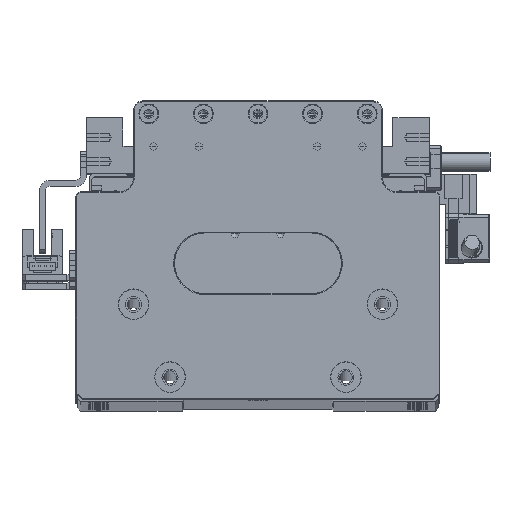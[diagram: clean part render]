
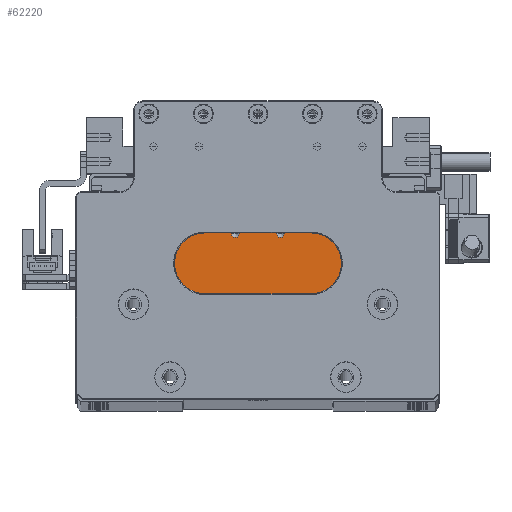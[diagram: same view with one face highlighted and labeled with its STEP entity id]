
A CAD part, top view. The second image highlights one B-rep face of the part: STEP entity #62220.
In plain terms, the highlighted planar face has unit normal (0, 0, 1).
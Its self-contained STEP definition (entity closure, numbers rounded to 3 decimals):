
#442 = ORIENTED_EDGE ( 'NONE', *, *, #6094, .T. ) ;
#823 = CARTESIAN_POINT ( 'NONE',  ( -18.5, 40., 66.894 ) ) ;
#1747 = EDGE_CURVE ( 'NONE', #52433, #30160, #5099, .T. ) ;
#2369 = CARTESIAN_POINT ( 'NONE',  ( 18.5, 40., 66.894 ) ) ;
#2389 = DIRECTION ( 'NONE',  ( 0., 0., -1. ) ) ;
#3523 = EDGE_CURVE ( 'NONE', #11000, #57046, #13319, .T. ) ;
#5069 = EDGE_LOOP ( 'NONE', ( #21007, #442 ) ) ;
#5099 = LINE ( 'NONE', #63470, #29194 ) ;
#5268 = CARTESIAN_POINT ( 'NONE',  ( 29.8, 0.2, 66.894 ) ) ;
#6094 = EDGE_CURVE ( 'NONE', #112941, #102777, #44918, .T. ) ;
#9159 = DIRECTION ( 'NONE',  ( 0., 1., 0. ) ) ;
#9727 = EDGE_CURVE ( 'NONE', #105417, #62885, #73135, .T. ) ;
#11000 = VERTEX_POINT ( 'NONE', #47324 ) ;
#11071 = EDGE_CURVE ( 'NONE', #32023, #73016, #116857, .T. ) ;
#11489 = DIRECTION ( 'NONE',  ( 1., 0., 0. ) ) ;
#11765 = ORIENTED_EDGE ( 'NONE', *, *, #63545, .T. ) ;
#12380 = EDGE_CURVE ( 'NONE', #73016, #11000, #89602, .T. ) ;
#12430 = CARTESIAN_POINT ( 'NONE',  ( -18.5, 40.2, 66.894 ) ) ;
#13319 = LINE ( 'NONE', #14791, #79906 ) ;
#14592 = EDGE_CURVE ( 'NONE', #30160, #105417, #52950, .T. ) ;
#14791 = CARTESIAN_POINT ( 'NONE',  ( -29.8, 40.2, 66.894 ) ) ;
#16178 = CARTESIAN_POINT ( 'NONE',  ( -29.8, 0.2, 66.894 ) ) ;
#16188 = ORIENTED_EDGE ( 'NONE', *, *, #57287, .T. ) ;
#17327 = VECTOR ( 'NONE', #52296, 1000. ) ;
#18238 = VECTOR ( 'NONE', #37091, 1000. ) ;
#20329 = FACE_BOUND ( 'NONE', #5069, .T. ) ;
#21007 = ORIENTED_EDGE ( 'NONE', *, *, #65909, .T. ) ;
#22086 = VECTOR ( 'NONE', #73772, 1000. ) ;
#24542 = ORIENTED_EDGE ( 'NONE', *, *, #9727, .T. ) ;
#25079 = VECTOR ( 'NONE', #25409, 1000. ) ;
#25409 = DIRECTION ( 'NONE',  ( -1., 0., 0. ) ) ;
#26092 = CARTESIAN_POINT ( 'NONE',  ( -8.75, 32.2, 66.894 ) ) ;
#27690 = EDGE_CURVE ( 'NONE', #82451, #45505, #38407, .T. ) ;
#27791 = ORIENTED_EDGE ( 'NONE', *, *, #11071, .T. ) ;
#28841 = VECTOR ( 'NONE', #104257, 1000. ) ;
#29194 = VECTOR ( 'NONE', #9159, 1000. ) ;
#30160 = VERTEX_POINT ( 'NONE', #64134 ) ;
#30661 = CARTESIAN_POINT ( 'NONE',  ( -6.25, 32.2, 66.894 ) ) ;
#32023 = VERTEX_POINT ( 'NONE', #823 ) ;
#34543 = ORIENTED_EDGE ( 'NONE', *, *, #12380, .T. ) ;
#35277 = DIRECTION ( 'NONE',  ( 0., 0., -1. ) ) ;
#37091 = DIRECTION ( 'NONE',  ( 1., 0., 0. ) ) ;
#38407 = CIRCLE ( 'NONE', #49732, 1.25 ) ;
#39749 = ORIENTED_EDGE ( 'NONE', *, *, #14592, .T. ) ;
#40854 = CARTESIAN_POINT ( 'NONE',  ( 0., 32.2, 66.894 ) ) ;
#41372 = EDGE_LOOP ( 'NONE', ( #73895, #11765 ) ) ;
#42360 = LINE ( 'NONE', #73181, #18238 ) ;
#43205 = CARTESIAN_POINT ( 'NONE',  ( 0., 32.2, 66.894 ) ) ;
#44918 = CIRCLE ( 'NONE', #113975, 1.25 ) ;
#45505 = VERTEX_POINT ( 'NONE', #111321 ) ;
#45740 = ORIENTED_EDGE ( 'NONE', *, *, #1747, .T. ) ;
#45942 = DIRECTION ( 'NONE',  ( 0., 0., -1. ) ) ;
#46162 = ORIENTED_EDGE ( 'NONE', *, *, #83765, .T. ) ;
#46362 = LINE ( 'NONE', #70608, #25079 ) ;
#47324 = CARTESIAN_POINT ( 'NONE',  ( -29.8, 32.2, 66.894 ) ) ;
#47399 = DIRECTION ( 'NONE',  ( 0., 0., -1. ) ) ;
#49732 = AXIS2_PLACEMENT_3D ( 'NONE', #56656, #2389, #65802 ) ;
#52296 = DIRECTION ( 'NONE',  ( -1., 0., 0. ) ) ;
#52433 = VERTEX_POINT ( 'NONE', #5268 ) ;
#52950 = LINE ( 'NONE', #40854, #28841 ) ;
#56656 = CARTESIAN_POINT ( 'NONE',  ( 7.5, 32.2, 66.894 ) ) ;
#57046 = VERTEX_POINT ( 'NONE', #16178 ) ;
#57287 = EDGE_CURVE ( 'NONE', #57046, #52433, #42360, .T. ) ;
#57817 = CARTESIAN_POINT ( 'NONE',  ( 8.75, 32.2, 66.894 ) ) ;
#62220 = ADVANCED_FACE ( 'NONE', ( #113977, #68563, #20329 ), #110166, .T. ) ;
#62885 = VERTEX_POINT ( 'NONE', #2369 ) ;
#63470 = CARTESIAN_POINT ( 'NONE',  ( 29.8, 40.2, 66.894 ) ) ;
#63545 = EDGE_CURVE ( 'NONE', #45505, #82451, #87663, .T. ) ;
#64134 = CARTESIAN_POINT ( 'NONE',  ( 29.8, 32.2, 66.894 ) ) ;
#65767 = AXIS2_PLACEMENT_3D ( 'NONE', #110965, #65796, #11489 ) ;
#65796 = DIRECTION ( 'NONE',  ( 0., 0., 1. ) ) ;
#65802 = DIRECTION ( 'NONE',  ( 1., 0., 0. ) ) ;
#65909 = EDGE_CURVE ( 'NONE', #102777, #112941, #115613, .T. ) ;
#68563 = FACE_BOUND ( 'NONE', #41372, .T. ) ;
#70608 = CARTESIAN_POINT ( 'NONE',  ( 0., 40., 66.894 ) ) ;
#71435 = VECTOR ( 'NONE', #75818, 1000. ) ;
#73016 = VERTEX_POINT ( 'NONE', #86582 ) ;
#73135 = LINE ( 'NONE', #109823, #22086 ) ;
#73181 = CARTESIAN_POINT ( 'NONE',  ( -30., 0.2, 66.894 ) ) ;
#73772 = DIRECTION ( 'NONE',  ( 0., 1., 0. ) ) ;
#73895 = ORIENTED_EDGE ( 'NONE', *, *, #27690, .T. ) ;
#75818 = DIRECTION ( 'NONE',  ( 0., -1., 0. ) ) ;
#77081 = ORIENTED_EDGE ( 'NONE', *, *, #3523, .T. ) ;
#78854 = CARTESIAN_POINT ( 'NONE',  ( 18.5, 32.2, 66.894 ) ) ;
#79906 = VECTOR ( 'NONE', #87250, 1000. ) ;
#82451 = VERTEX_POINT ( 'NONE', #57817 ) ;
#83765 = EDGE_CURVE ( 'NONE', #62885, #32023, #46362, .T. ) ;
#86582 = CARTESIAN_POINT ( 'NONE',  ( -18.5, 32.2, 66.894 ) ) ;
#87069 = AXIS2_PLACEMENT_3D ( 'NONE', #101680, #47399, #110816 ) ;
#87250 = DIRECTION ( 'NONE',  ( 0., -1., 0. ) ) ;
#87663 = CIRCLE ( 'NONE', #87069, 1.25 ) ;
#89551 = CARTESIAN_POINT ( 'NONE',  ( -7.5, 32.2, 66.894 ) ) ;
#89602 = LINE ( 'NONE', #43205, #17327 ) ;
#98681 = DIRECTION ( 'NONE',  ( 1., 0., 0. ) ) ;
#100212 = CARTESIAN_POINT ( 'NONE',  ( -7.5, 32.2, 66.894 ) ) ;
#101680 = CARTESIAN_POINT ( 'NONE',  ( 7.5, 32.2, 66.894 ) ) ;
#102777 = VERTEX_POINT ( 'NONE', #30661 ) ;
#103352 = EDGE_LOOP ( 'NONE', ( #46162, #27791, #34543, #77081, #16188, #45740, #39749, #24542 ) ) ;
#104257 = DIRECTION ( 'NONE',  ( -1., 0., 0. ) ) ;
#105417 = VERTEX_POINT ( 'NONE', #78854 ) ;
#107751 = AXIS2_PLACEMENT_3D ( 'NONE', #89551, #35277, #98681 ) ;
#109322 = DIRECTION ( 'NONE',  ( 1., 0., 0. ) ) ;
#109823 = CARTESIAN_POINT ( 'NONE',  ( 18.5, 40.2, 66.894 ) ) ;
#110166 = PLANE ( 'NONE',  #65767 ) ;
#110816 = DIRECTION ( 'NONE',  ( 1., 0., 0. ) ) ;
#110965 = CARTESIAN_POINT ( 'NONE',  ( 0., 40.2, 66.894 ) ) ;
#111321 = CARTESIAN_POINT ( 'NONE',  ( 6.25, 32.2, 66.894 ) ) ;
#112941 = VERTEX_POINT ( 'NONE', #26092 ) ;
#113975 = AXIS2_PLACEMENT_3D ( 'NONE', #100212, #45942, #109322 ) ;
#113977 = FACE_OUTER_BOUND ( 'NONE', #103352, .T. ) ;
#115613 = CIRCLE ( 'NONE', #107751, 1.25 ) ;
#116857 = LINE ( 'NONE', #12430, #71435 ) ;
